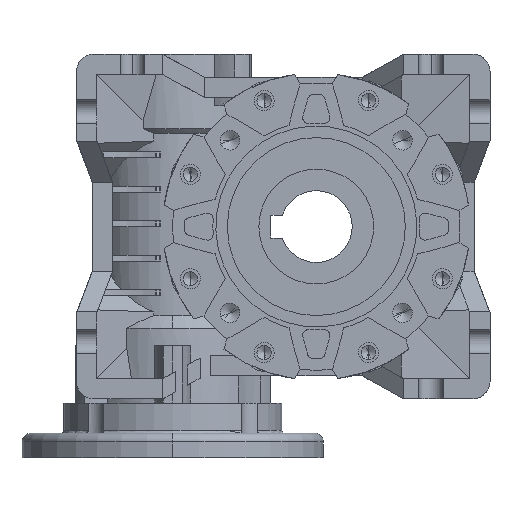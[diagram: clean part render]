
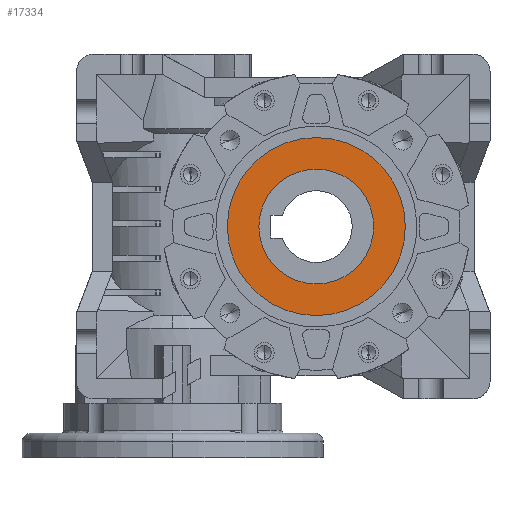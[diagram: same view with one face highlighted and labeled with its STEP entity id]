
A CAD part, left-side view. The second image highlights one B-rep face of the part: STEP entity #17334.
In plain terms, the highlighted planar face has unit normal (-1, 0, 0).
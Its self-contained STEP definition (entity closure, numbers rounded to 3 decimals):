
#899 = CARTESIAN_POINT ( 'NONE',  ( -45.5, 0., 0. ) ) ;
#950 = DIRECTION ( 'NONE',  ( -1., 0., 0. ) ) ;
#1314 = DIRECTION ( 'NONE',  ( 0., 0., 1. ) ) ;
#3795 = AXIS2_PLACEMENT_3D ( 'NONE', #37824, #17316, #41314 ) ;
#4358 = DIRECTION ( 'NONE',  ( 0., 0., 1. ) ) ;
#7900 = CARTESIAN_POINT ( 'NONE',  ( -45.5, 0., -20. ) ) ;
#11298 = VERTEX_POINT ( 'NONE', #13492 ) ;
#13492 = CARTESIAN_POINT ( 'NONE',  ( -45.5, 0., -31. ) ) ;
#14137 = EDGE_LOOP ( 'NONE', ( #22979, #24162 ) ) ;
#14790 = CARTESIAN_POINT ( 'NONE',  ( -45.5, 0., 0. ) ) ;
#17316 = DIRECTION ( 'NONE',  ( -1., 0., 0. ) ) ;
#17334 = ADVANCED_FACE ( 'NONE', ( #23656, #42965 ), #42441, .T. ) ;
#17479 = CIRCLE ( 'NONE', #20360, 20. ) ;
#18252 = DIRECTION ( 'NONE',  ( 0., 0., 1. ) ) ;
#20360 = AXIS2_PLACEMENT_3D ( 'NONE', #14790, #38768, #18252 ) ;
#21522 = CARTESIAN_POINT ( 'NONE',  ( -45.5, 0., 0. ) ) ;
#21938 = CIRCLE ( 'NONE', #3795, 20. ) ;
#22979 = ORIENTED_EDGE ( 'NONE', *, *, #36350, .F. ) ;
#23656 = FACE_BOUND ( 'NONE', #14137, .T. ) ;
#24162 = ORIENTED_EDGE ( 'NONE', *, *, #41318, .F. ) ;
#24555 = ORIENTED_EDGE ( 'NONE', *, *, #38677, .T. ) ;
#24910 = DIRECTION ( 'NONE',  ( -1., 0., 0. ) ) ;
#24953 = DIRECTION ( 'NONE',  ( 0., 0., 1. ) ) ;
#25147 = ORIENTED_EDGE ( 'NONE', *, *, #30978, .T. ) ;
#27779 = CARTESIAN_POINT ( 'NONE',  ( -45.5, 0., 20. ) ) ;
#29497 = EDGE_LOOP ( 'NONE', ( #24555, #25147 ) ) ;
#30331 = AXIS2_PLACEMENT_3D ( 'NONE', #38981, #42288, #1314 ) ;
#30674 = VERTEX_POINT ( 'NONE', #33130 ) ;
#30978 = EDGE_CURVE ( 'NONE', #11298, #30674, #43991, .T. ) ;
#33130 = CARTESIAN_POINT ( 'NONE',  ( -45.5, 0., 31. ) ) ;
#36350 = EDGE_CURVE ( 'NONE', #40278, #41348, #17479, .T. ) ;
#37824 = CARTESIAN_POINT ( 'NONE',  ( -45.5, 0., 0. ) ) ;
#37892 = AXIS2_PLACEMENT_3D ( 'NONE', #899, #24910, #4358 ) ;
#38677 = EDGE_CURVE ( 'NONE', #30674, #11298, #39268, .T. ) ;
#38768 = DIRECTION ( 'NONE',  ( -1., 0., 0. ) ) ;
#38981 = CARTESIAN_POINT ( 'NONE',  ( -45.5, 0., 0. ) ) ;
#39268 = CIRCLE ( 'NONE', #37892, 31. ) ;
#40278 = VERTEX_POINT ( 'NONE', #27779 ) ;
#41314 = DIRECTION ( 'NONE',  ( 0., 0., 1. ) ) ;
#41318 = EDGE_CURVE ( 'NONE', #41348, #40278, #21938, .T. ) ;
#41348 = VERTEX_POINT ( 'NONE', #7900 ) ;
#42288 = DIRECTION ( 'NONE',  ( -1., 0., 0. ) ) ;
#42339 = AXIS2_PLACEMENT_3D ( 'NONE', #21522, #950, #24953 ) ;
#42441 = PLANE ( 'NONE',  #30331 ) ;
#42965 = FACE_OUTER_BOUND ( 'NONE', #29497, .T. ) ;
#43991 = CIRCLE ( 'NONE', #42339, 31. ) ;
